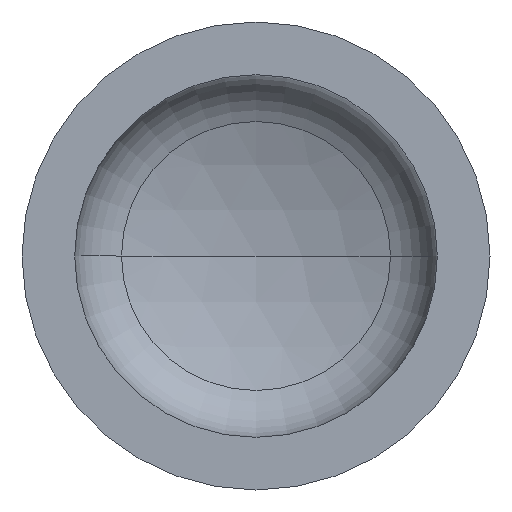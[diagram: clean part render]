
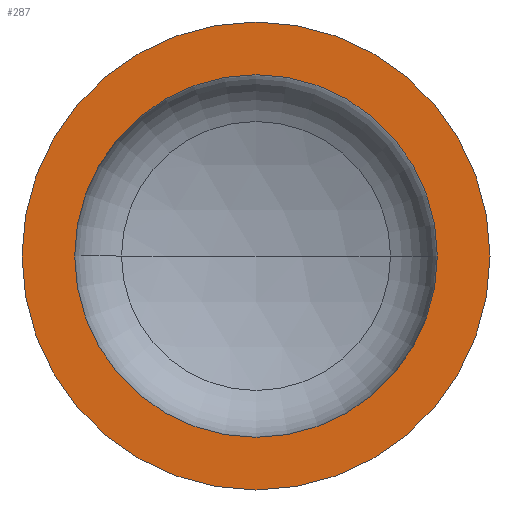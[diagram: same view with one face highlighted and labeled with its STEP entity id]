
A CAD part, front view. The second image highlights one B-rep face of the part: STEP entity #287.
In plain terms, the highlighted planar face has unit normal (0, -1, 0).
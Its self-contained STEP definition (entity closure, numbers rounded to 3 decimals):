
#1 = CARTESIAN_POINT ( 'NONE',  ( -400., 0., 0. ) ) ;
#7 = AXIS2_PLACEMENT_3D ( 'NONE', #158, #337, #192 ) ;
#14 = AXIS2_PLACEMENT_3D ( 'NONE', #1, #112, #308 ) ;
#44 = AXIS2_PLACEMENT_3D ( 'NONE', #300, #140, #324 ) ;
#45 = AXIS2_PLACEMENT_3D ( 'NONE', #401, #258, #50 ) ;
#48 = ORIENTED_EDGE ( 'NONE', *, *, #65, .T. ) ;
#49 = AXIS2_PLACEMENT_3D ( 'NONE', #80, #292, #122 ) ;
#50 = DIRECTION ( 'NONE',  ( 1., 0., 0. ) ) ;
#65 = EDGE_CURVE ( 'NONE', #90, #156, #321, .T. ) ;
#66 = EDGE_CURVE ( 'NONE', #286, #409, #254, .T. ) ;
#73 = EDGE_LOOP ( 'NONE', ( #328, #48 ) ) ;
#80 = CARTESIAN_POINT ( 'NONE',  ( 0., 0., 0. ) ) ;
#90 = VERTEX_POINT ( 'NONE', #381 ) ;
#106 = ORIENTED_EDGE ( 'NONE', *, *, #66, .F. ) ;
#112 = DIRECTION ( 'NONE',  ( 0., 1., 0. ) ) ;
#122 = DIRECTION ( 'NONE',  ( 1., 0., 0. ) ) ;
#140 = DIRECTION ( 'NONE',  ( 0., -1., 0. ) ) ;
#156 = VERTEX_POINT ( 'NONE', #332 ) ;
#158 = CARTESIAN_POINT ( 'NONE',  ( 0., 0., 0. ) ) ;
#176 = ORIENTED_EDGE ( 'NONE', *, *, #340, .F. ) ;
#192 = DIRECTION ( 'NONE',  ( 1., 0., 0. ) ) ;
#203 = CIRCLE ( 'NONE', #49, 400. ) ;
#254 = CIRCLE ( 'NONE', #44, 310. ) ;
#258 = DIRECTION ( 'NONE',  ( 0., -1., 0. ) ) ;
#266 = CARTESIAN_POINT ( 'NONE',  ( 310., 0., 0. ) ) ;
#269 = EDGE_LOOP ( 'NONE', ( #106, #176 ) ) ;
#273 = CIRCLE ( 'NONE', #7, 310. ) ;
#277 = FACE_BOUND ( 'NONE', #269, .T. ) ;
#286 = VERTEX_POINT ( 'NONE', #266 ) ;
#287 = ADVANCED_FACE ( 'NONE', ( #277, #350 ), #288, .F. ) ;
#288 = PLANE ( 'NONE',  #14 ) ;
#292 = DIRECTION ( 'NONE',  ( 0., -1., 0. ) ) ;
#300 = CARTESIAN_POINT ( 'NONE',  ( 0., 0., 0. ) ) ;
#308 = DIRECTION ( 'NONE',  ( -1., 0., 0. ) ) ;
#316 = CARTESIAN_POINT ( 'NONE',  ( -310., 0., 0. ) ) ;
#321 = CIRCLE ( 'NONE', #45, 400. ) ;
#324 = DIRECTION ( 'NONE',  ( 1., 0., 0. ) ) ;
#328 = ORIENTED_EDGE ( 'NONE', *, *, #360, .T. ) ;
#332 = CARTESIAN_POINT ( 'NONE',  ( 400., 0., 0. ) ) ;
#337 = DIRECTION ( 'NONE',  ( 0., -1., 0. ) ) ;
#340 = EDGE_CURVE ( 'NONE', #409, #286, #273, .T. ) ;
#350 = FACE_OUTER_BOUND ( 'NONE', #73, .T. ) ;
#360 = EDGE_CURVE ( 'NONE', #156, #90, #203, .T. ) ;
#381 = CARTESIAN_POINT ( 'NONE',  ( -400., 0., 0. ) ) ;
#401 = CARTESIAN_POINT ( 'NONE',  ( 0., 0., 0. ) ) ;
#409 = VERTEX_POINT ( 'NONE', #316 ) ;
